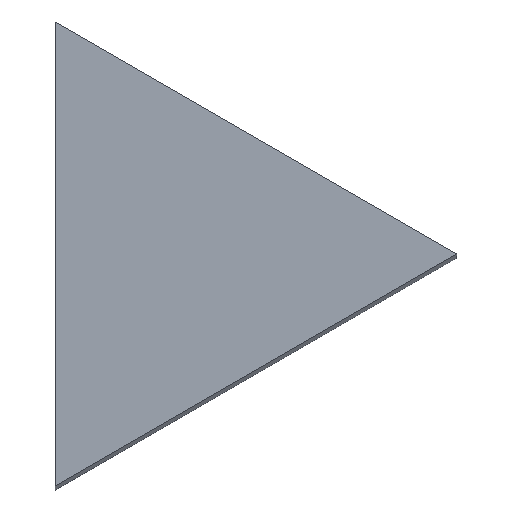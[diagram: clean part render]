
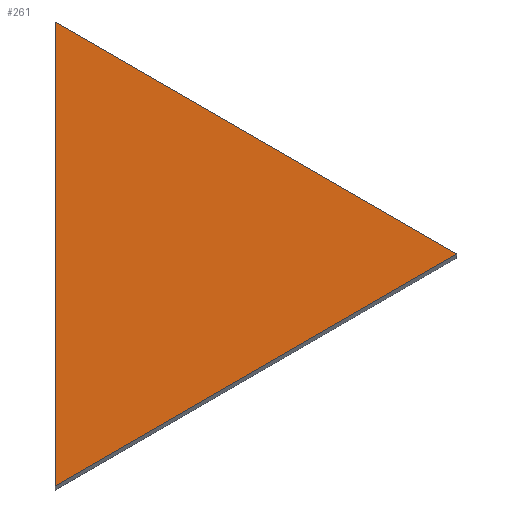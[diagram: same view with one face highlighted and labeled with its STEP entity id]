
A CAD part, top view. The second image highlights one B-rep face of the part: STEP entity #261.
In plain terms, the highlighted planar face has unit normal (0, 0, 1).
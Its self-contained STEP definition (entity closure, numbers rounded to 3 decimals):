
#24 = VERTEX_POINT('',#25);
#25 = CARTESIAN_POINT('',(20.63,0.,180.7));
#32 = PLANE('',#33);
#33 = AXIS2_PLACEMENT_3D('',#34,#35,#36);
#34 = CARTESIAN_POINT('',(20.63,0.,0.));
#35 = DIRECTION('',(-0.5,-0.866,0.));
#36 = DIRECTION('',(-0.866,0.5,0.));
#44 = PLANE('',#45);
#45 = AXIS2_PLACEMENT_3D('',#46,#47,#48);
#46 = CARTESIAN_POINT('',(-10.315,-17.866,0.));
#47 = DIRECTION('',(-0.5,0.866,0.));
#48 = DIRECTION('',(0.866,0.5,0.));
#56 = EDGE_CURVE('',#24,#57,#59,.T.);
#57 = VERTEX_POINT('',#58);
#58 = CARTESIAN_POINT('',(-10.315,17.866,180.7));
#59 = SURFACE_CURVE('',#60,(#64,#71),.PCURVE_S1.);
#60 = LINE('',#61,#62);
#61 = CARTESIAN_POINT('',(20.63,0.,180.7));
#62 = VECTOR('',#63,1.);
#63 = DIRECTION('',(-0.866,0.5,0.));
#64 = PCURVE('',#32,#65);
#65 = DEFINITIONAL_REPRESENTATION('',(#66),#70);
#66 = LINE('',#67,#68);
#67 = CARTESIAN_POINT('',(0.,-180.7));
#68 = VECTOR('',#69,1.);
#69 = DIRECTION('',(1.,0.));
#70 = ( GEOMETRIC_REPRESENTATION_CONTEXT(2) 
PARAMETRIC_REPRESENTATION_CONTEXT() REPRESENTATION_CONTEXT('2D SPACE',''
  ) );
#71 = PCURVE('',#72,#77);
#72 = PLANE('',#73);
#73 = AXIS2_PLACEMENT_3D('',#74,#75,#76);
#74 = CARTESIAN_POINT('',(0.,0.,180.7)
  );
#75 = DIRECTION('',(0.,0.,1.));
#76 = DIRECTION('',(1.,0.,-0.));
#77 = DEFINITIONAL_REPRESENTATION('',(#78),#82);
#78 = LINE('',#79,#80);
#79 = CARTESIAN_POINT('',(20.63,0.));
#80 = VECTOR('',#81,1.);
#81 = DIRECTION('',(-0.866,0.5));
#82 = ( GEOMETRIC_REPRESENTATION_CONTEXT(2) 
PARAMETRIC_REPRESENTATION_CONTEXT() REPRESENTATION_CONTEXT('2D SPACE',''
  ) );
#100 = PLANE('',#101);
#101 = AXIS2_PLACEMENT_3D('',#102,#103,#104);
#102 = CARTESIAN_POINT('',(-10.315,17.866,0.));
#103 = DIRECTION('',(1.,0.,0.));
#104 = DIRECTION('',(0.,-1.,0.));
#142 = EDGE_CURVE('',#57,#143,#145,.T.);
#143 = VERTEX_POINT('',#144);
#144 = CARTESIAN_POINT('',(-10.315,-17.866,180.7));
#145 = SURFACE_CURVE('',#146,(#150,#157),.PCURVE_S1.);
#146 = LINE('',#147,#148);
#147 = CARTESIAN_POINT('',(-10.315,17.866,180.7));
#148 = VECTOR('',#149,1.);
#149 = DIRECTION('',(0.,-1.,0.));
#150 = PCURVE('',#100,#151);
#151 = DEFINITIONAL_REPRESENTATION('',(#152),#156);
#152 = LINE('',#153,#154);
#153 = CARTESIAN_POINT('',(0.,-180.7));
#154 = VECTOR('',#155,1.);
#155 = DIRECTION('',(1.,0.));
#156 = ( GEOMETRIC_REPRESENTATION_CONTEXT(2) 
PARAMETRIC_REPRESENTATION_CONTEXT() REPRESENTATION_CONTEXT('2D SPACE',''
  ) );
#157 = PCURVE('',#72,#158);
#158 = DEFINITIONAL_REPRESENTATION('',(#159),#163);
#159 = LINE('',#160,#161);
#160 = CARTESIAN_POINT('',(-10.315,17.866));
#161 = VECTOR('',#162,1.);
#162 = DIRECTION('',(0.,-1.));
#163 = ( GEOMETRIC_REPRESENTATION_CONTEXT(2) 
PARAMETRIC_REPRESENTATION_CONTEXT() REPRESENTATION_CONTEXT('2D SPACE',''
  ) );
#213 = EDGE_CURVE('',#143,#24,#214,.T.);
#214 = SURFACE_CURVE('',#215,(#219,#226),.PCURVE_S1.);
#215 = LINE('',#216,#217);
#216 = CARTESIAN_POINT('',(-10.315,-17.866,180.7));
#217 = VECTOR('',#218,1.);
#218 = DIRECTION('',(0.866,0.5,0.));
#219 = PCURVE('',#44,#220);
#220 = DEFINITIONAL_REPRESENTATION('',(#221),#225);
#221 = LINE('',#222,#223);
#222 = CARTESIAN_POINT('',(0.,-180.7));
#223 = VECTOR('',#224,1.);
#224 = DIRECTION('',(1.,0.));
#225 = ( GEOMETRIC_REPRESENTATION_CONTEXT(2) 
PARAMETRIC_REPRESENTATION_CONTEXT() REPRESENTATION_CONTEXT('2D SPACE',''
  ) );
#226 = PCURVE('',#72,#227);
#227 = DEFINITIONAL_REPRESENTATION('',(#228),#232);
#228 = LINE('',#229,#230);
#229 = CARTESIAN_POINT('',(-10.315,-17.866));
#230 = VECTOR('',#231,1.);
#231 = DIRECTION('',(0.866,0.5));
#232 = ( GEOMETRIC_REPRESENTATION_CONTEXT(2) 
PARAMETRIC_REPRESENTATION_CONTEXT() REPRESENTATION_CONTEXT('2D SPACE',''
  ) );
#261 = ADVANCED_FACE('',(#262),#72,.T.);
#262 = FACE_BOUND('',#263,.T.);
#263 = EDGE_LOOP('',(#264,#265,#266));
#264 = ORIENTED_EDGE('',*,*,#56,.T.);
#265 = ORIENTED_EDGE('',*,*,#142,.T.);
#266 = ORIENTED_EDGE('',*,*,#213,.T.);
